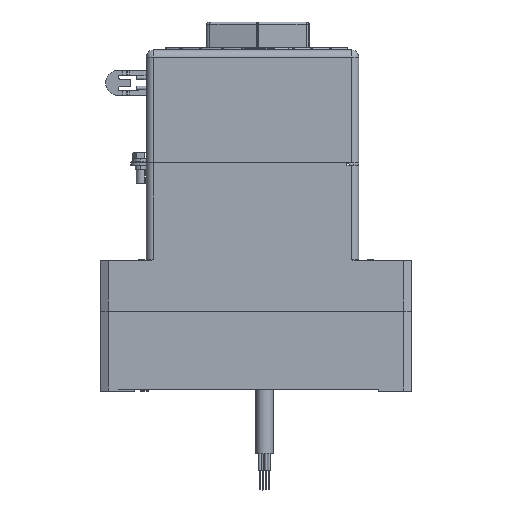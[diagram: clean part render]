
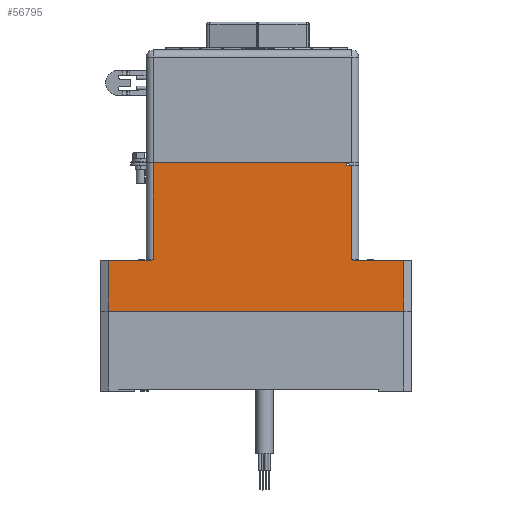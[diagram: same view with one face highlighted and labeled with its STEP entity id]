
A CAD part, top view. The second image highlights one B-rep face of the part: STEP entity #56795.
In plain terms, the highlighted planar face has unit normal (0, 0, 1).
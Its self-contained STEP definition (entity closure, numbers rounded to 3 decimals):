
#15025 = CARTESIAN_POINT ( 'NONE',  ( 83.35, 47.505, 56.25 ) ) ;
#15027 = DIRECTION ( 'NONE',  ( 0., 1., 0. ) ) ;
#15028 = VECTOR ( 'NONE', #15027, 1000. ) ;
#15029 = CARTESIAN_POINT ( 'NONE',  ( 83.35, 77.505, 56.25 ) ) ;
#15030 = LINE ( 'NONE', #15029, #15028 ) ;
#15046 = DIRECTION ( 'NONE',  ( 0., -1., 0. ) ) ;
#15047 = VECTOR ( 'NONE', #15046, 1000. ) ;
#15048 = CARTESIAN_POINT ( 'NONE',  ( -83.05, 77.505, 56.25 ) ) ;
#15049 = LINE ( 'NONE', #15048, #15047 ) ;
#15101 = CARTESIAN_POINT ( 'NONE',  ( -83.05, 47.505, 56.25 ) ) ;
#15103 = CARTESIAN_POINT ( 'NONE',  ( -83.05, 76.005, 56.25 ) ) ;
#15138 = CARTESIAN_POINT ( 'NONE',  ( 83.35, 76.005, 56.25 ) ) ;
#19026 = DIRECTION ( 'NONE',  ( 1., 0., 0. ) ) ;
#19027 = VECTOR ( 'NONE', #19026, 1000. ) ;
#19028 = CARTESIAN_POINT ( 'NONE',  ( -87.35, 47.505, 56.25 ) ) ;
#19029 = LINE ( 'NONE', #19028, #19027 ) ;
#20899 = CARTESIAN_POINT ( 'NONE',  ( -57.65, 131.105, 56.25 ) ) ;
#20904 = DIRECTION ( 'NONE',  ( 0., -1., 0. ) ) ;
#20905 = VECTOR ( 'NONE', #20904, 1000. ) ;
#20906 = CARTESIAN_POINT ( 'NONE',  ( -57.65, 77.505, 56.25 ) ) ;
#20907 = LINE ( 'NONE', #20906, #20905 ) ;
#20909 = CARTESIAN_POINT ( 'NONE',  ( -57.65, 76.505, 56.25 ) ) ;
#20928 = CARTESIAN_POINT ( 'NONE',  ( -59.712, 76.005, 56.25 ) ) ;
#20929 = CARTESIAN_POINT ( 'NONE',  ( -59.533, 76.005, 56.25 ) ) ;
#20930 = CARTESIAN_POINT ( 'NONE',  ( -59.357, 76.025, 56.25 ) ) ;
#20931 = CARTESIAN_POINT ( 'NONE',  ( -59.008, 76.085, 56.25 ) ) ;
#20932 = CARTESIAN_POINT ( 'NONE',  ( -58.835, 76.126, 56.25 ) ) ;
#20933 = CARTESIAN_POINT ( 'NONE',  ( -58.321, 76.268, 56.25 ) ) ;
#20934 = CARTESIAN_POINT ( 'NONE',  ( -57.985, 76.387, 56.25 ) ) ;
#20935 = CARTESIAN_POINT ( 'NONE',  ( -57.65, 76.505, 56.25 ) ) ;
#20938 = CARTESIAN_POINT ( 'NONE',  ( -59.712, 76.005, 56.25 ) ) ;
#20939 = B_SPLINE_CURVE_WITH_KNOTS ( 'NONE', 3,
 ( #20935, #20934, #20933, #20932, #20931, #20930, #20929, #20928 ),
 .UNSPECIFIED., .F., .F.,
 ( 4, 2, 2, 4 ),
 ( 0., 0.001, 0.002, 0.002 ),
 .UNSPECIFIED. ) ;
#20985 = DIRECTION ( 'NONE',  ( 1., 0., 0. ) ) ;
#20986 = VECTOR ( 'NONE', #20985, 1000. ) ;
#20987 = CARTESIAN_POINT ( 'NONE',  ( -83.05, 76.005, 56.25 ) ) ;
#20988 = LINE ( 'NONE', #20987, #20986 ) ;
#21832 = CARTESIAN_POINT ( 'NONE',  ( 50.345, 131.105, 56.25 ) ) ;
#21833 = DIRECTION ( 'NONE',  ( 1., 0., 0. ) ) ;
#21834 = VECTOR ( 'NONE', #21833, 1000. ) ;
#21835 = CARTESIAN_POINT ( 'NONE',  ( -61.65, 131.105, 56.25 ) ) ;
#21836 = LINE ( 'NONE', #21835, #21834 ) ;
#21879 = DIRECTION ( 'NONE',  ( 0., 1., 0. ) ) ;
#21880 = DIRECTION ( 'NONE',  ( 0., 0., 1. ) ) ;
#21881 = CARTESIAN_POINT ( 'NONE',  ( 50.345, 130.105, 56.25 ) ) ;
#21882 = AXIS2_PLACEMENT_3D ( 'NONE', #21881, #21880, #21879 ) ;
#21883 = CIRCLE ( 'NONE', #21882, 1. ) ;
#21884 = DIRECTION ( 'NONE',  ( 0., 1., 0. ) ) ;
#21885 = DIRECTION ( 'NONE',  ( 0., 0., -1. ) ) ;
#21886 = CARTESIAN_POINT ( 'NONE',  ( -87.35, 77.505, 56.25 ) ) ;
#21887 = AXIS2_PLACEMENT_3D ( 'NONE', #21886, #21885, #21884 ) ;
#21888 = PLANE ( 'NONE',  #21887 ) ;
#21889 = FACE_OUTER_BOUND ( 'NONE', #56796, .T. ) ;
#21912 = CARTESIAN_POINT ( 'NONE',  ( 51.345, 130.114, 56.25 ) ) ;
#21957 = DIRECTION ( 'NONE',  ( 1., 0., 0. ) ) ;
#21958 = VECTOR ( 'NONE', #21957, 1000. ) ;
#21959 = CARTESIAN_POINT ( 'NONE',  ( 57.95, 76.005, 56.25 ) ) ;
#21960 = LINE ( 'NONE', #21959, #21958 ) ;
#22005 = DIRECTION ( 'NONE',  ( 0.009, -1., 0. ) ) ;
#22006 = VECTOR ( 'NONE', #22005, 1000. ) ;
#22007 = CARTESIAN_POINT ( 'NONE',  ( 51.35, 129.605, 56.25 ) ) ;
#22013 = LINE ( 'NONE', #22007, #22006 ) ;
#22015 = DIRECTION ( 'NONE',  ( 0., 1., 0. ) ) ;
#22016 = VECTOR ( 'NONE', #22015, 1000. ) ;
#22017 = CARTESIAN_POINT ( 'NONE',  ( 53.95, 77.505, 56.25 ) ) ;
#22018 = LINE ( 'NONE', #22017, #22016 ) ;
#37325 = EDGE_CURVE ( 'NONE', #37326, #37327, #66048, .T. ) ;
#37326 = VERTEX_POINT ( 'NONE', #66047 ) ;
#37327 = VERTEX_POINT ( 'NONE', #66049 ) ;
#37390 = EDGE_CURVE ( 'NONE', #37391, #37392, #66155, .T. ) ;
#37391 = VERTEX_POINT ( 'NONE', #66151 ) ;
#37392 = VERTEX_POINT ( 'NONE', #66150 ) ;
#52802 = EDGE_CURVE ( 'NONE', #52804, #52886, #15030, .T. ) ;
#52804 = VERTEX_POINT ( 'NONE', #15025 ) ;
#52825 = EDGE_CURVE ( 'NONE', #52827, #52829, #15049, .T. ) ;
#52827 = VERTEX_POINT ( 'NONE', #15103 ) ;
#52829 = VERTEX_POINT ( 'NONE', #15101 ) ;
#52886 = VERTEX_POINT ( 'NONE', #15138 ) ;
#55129 = EDGE_CURVE ( 'NONE', #52829, #52804, #19029, .T. ) ;
#56270 = VERTEX_POINT ( 'NONE', #20909 ) ;
#56274 = EDGE_CURVE ( 'NONE', #56276, #56270, #20907, .T. ) ;
#56276 = VERTEX_POINT ( 'NONE', #20899 ) ;
#56288 = EDGE_CURVE ( 'NONE', #56270, #56289, #20939, .T. ) ;
#56289 = VERTEX_POINT ( 'NONE', #20938 ) ;
#56340 = EDGE_CURVE ( 'NONE', #52827, #56289, #20988, .T. ) ;
#56761 = EDGE_CURVE ( 'NONE', #56276, #56763, #21836, .T. ) ;
#56763 = VERTEX_POINT ( 'NONE', #21832 ) ;
#56795 = ADVANCED_FACE ( 'NONE', ( #21889 ), #21888, .F. ) ;
#56796 = EDGE_LOOP ( 'NONE', ( #56797, #56798, #56800, #56801, #56802, #56864, #56865, #56866, #56868, #56869, #56871, #56872, #56874 ) ) ;
#56797 = ORIENTED_EDGE ( 'NONE', *, *, #56878, .F. ) ;
#56798 = ORIENTED_EDGE ( 'NONE', *, *, #56799, .T. ) ;
#56799 = EDGE_CURVE ( 'NONE', #56815, #56763, #21883, .T. ) ;
#56800 = ORIENTED_EDGE ( 'NONE', *, *, #56761, .F. ) ;
#56801 = ORIENTED_EDGE ( 'NONE', *, *, #56274, .T. ) ;
#56802 = ORIENTED_EDGE ( 'NONE', *, *, #56288, .T. ) ;
#56815 = VERTEX_POINT ( 'NONE', #21912 ) ;
#56864 = ORIENTED_EDGE ( 'NONE', *, *, #56340, .F. ) ;
#56865 = ORIENTED_EDGE ( 'NONE', *, *, #52825, .T. ) ;
#56866 = ORIENTED_EDGE ( 'NONE', *, *, #55129, .T. ) ;
#56868 = ORIENTED_EDGE ( 'NONE', *, *, #52802, .T. ) ;
#56869 = ORIENTED_EDGE ( 'NONE', *, *, #56870, .F. ) ;
#56870 = EDGE_CURVE ( 'NONE', #37326, #52886, #21960, .T. ) ;
#56871 = ORIENTED_EDGE ( 'NONE', *, *, #37325, .T. ) ;
#56872 = ORIENTED_EDGE ( 'NONE', *, *, #56873, .T. ) ;
#56873 = EDGE_CURVE ( 'NONE', #37327, #37392, #22018, .T. ) ;
#56874 = ORIENTED_EDGE ( 'NONE', *, *, #37390, .F. ) ;
#56878 = EDGE_CURVE ( 'NONE', #56815, #37391, #22013, .T. ) ;
#66039 = CARTESIAN_POINT ( 'NONE',  ( 53.95, 76.505, 56.25 ) ) ;
#66040 = CARTESIAN_POINT ( 'NONE',  ( 54.283, 76.387, 56.25 ) ) ;
#66041 = CARTESIAN_POINT ( 'NONE',  ( 54.62, 76.268, 56.25 ) ) ;
#66042 = CARTESIAN_POINT ( 'NONE',  ( 55.135, 76.126, 56.25 ) ) ;
#66043 = CARTESIAN_POINT ( 'NONE',  ( 55.307, 76.085, 56.25 ) ) ;
#66044 = CARTESIAN_POINT ( 'NONE',  ( 55.656, 76.025, 56.25 ) ) ;
#66045 = CARTESIAN_POINT ( 'NONE',  ( 55.832, 76.005, 56.25 ) ) ;
#66046 = CARTESIAN_POINT ( 'NONE',  ( 56.011, 76.005, 56.25 ) ) ;
#66047 = CARTESIAN_POINT ( 'NONE',  ( 56.011, 76.005, 56.25 ) ) ;
#66048 = B_SPLINE_CURVE_WITH_KNOTS ( 'NONE', 3,
 ( #66046, #66045, #66044, #66043, #66042, #66041, #66040, #66039 ),
 .UNSPECIFIED., .F., .F.,
 ( 4, 2, 2, 4 ),
 ( 0., 0.001, 0.001, 0.002 ),
 .UNSPECIFIED. ) ;
#66049 = CARTESIAN_POINT ( 'NONE',  ( 53.95, 76.505, 56.25 ) ) ;
#66150 = CARTESIAN_POINT ( 'NONE',  ( 53.95, 129.605, 56.25 ) ) ;
#66151 = CARTESIAN_POINT ( 'NONE',  ( 51.35, 129.605, 56.25 ) ) ;
#66152 = DIRECTION ( 'NONE',  ( 1., 0., 0. ) ) ;
#66153 = VECTOR ( 'NONE', #66152, 1000. ) ;
#66154 = CARTESIAN_POINT ( 'NONE',  ( -61.65, 129.605, 56.25 ) ) ;
#66155 = LINE ( 'NONE', #66154, #66153 ) ;
